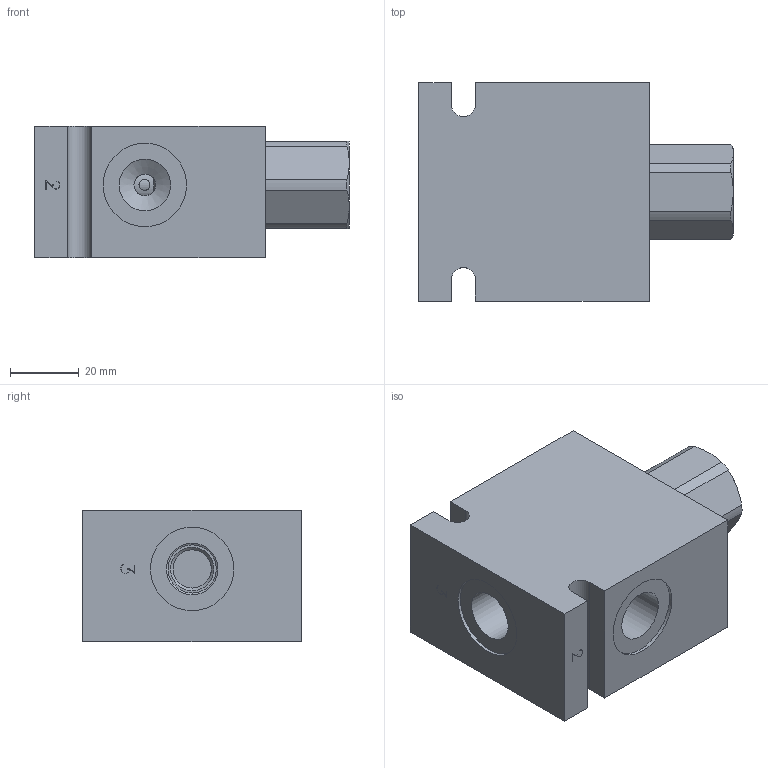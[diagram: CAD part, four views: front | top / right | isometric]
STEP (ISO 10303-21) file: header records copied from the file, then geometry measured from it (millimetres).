
FILE_DESCRIPTION( ( 'Unknown' ), '1' );
FILE_NAME( 'G:/Graphic Design/Graphic Design 2/Data Sheets/PRESSURE CONTROLS/2_STEP/Pressure Compensated Regulator Valves/D-DFPCS00-B3.stp', 'Unknown', ( 'Unknown' ), ( 'Unknown' ), 'PSStep 16.0.42', 'Unknown', ' ' );
FILE_SCHEMA( ( 'AUTOMOTIVE_DESIGN { 1 0 10303 214 1 1 1 1 }' ) );
Length unit declared in the file: millimetre
Products named in the file (11): DFPCS00; DFPCS00-3D Full1; DFPCS00-3D Full2; DFPCS00-3D Full3; DFPCS00-3D Full4; DFPCS00-3D Full5; DFPCS00-3D Full6; DFPCS00-3D Full7; DFPCS00-3D Full8; Assem1; B-DDFB3
Assembly tree (10 placements, depth 3):
  Assem1
    B-DDFB3
    DFPCS00
      DFPCS00-3D Full1
      DFPCS00-3D Full2
      DFPCS00-3D Full3
      DFPCS00-3D Full4
      DFPCS00-3D Full5
      DFPCS00-3D Full6
      DFPCS00-3D Full7
      DFPCS00-3D Full8
Bounding box: 91.4 x 63.5 x 38.1 mm (x, y, z)
Surface area: 34660 mm2 (no closed solid volume)
Topology: 0 solids, 243 shells, 243 faces, 1015 edges, 913 vertices
Faces by surface type: plane 125, cylinder 71, cone 40, torus 7
Full cylindrical faces by diameter (mm): 0.2 x3, 1.778 x1, 3.175 x12, 6.3 x1, 6.363 x1, 10.081 x3, 11.097 x5, 11.11 x1, 12.992 x1, 13.043 x2, 14 x2, 14.224 x1, 14.592 x1, 14.643 x2, 15 x6, 15.748 x1, 15.773 x2, 15.786 x2, 15.875 x1, 15.926 x1, 17.323 x1, 17.374 x2, 17.386 x2, 17.526 x1, 17.527 x1, 19.622 x1, 20.262 x2, 24.2 x3, 30.175 x1
Entity records: 14046 total; most frequent: CARTESIAN_POINT 5049, DIRECTION 1316, VERTEX_POINT 888, ORIENTED_EDGE 884, EDGE_CURVE 884, AXIS2_PLACEMENT_3D 547, FACE_BOUND 404, EDGE_LOOP 400
